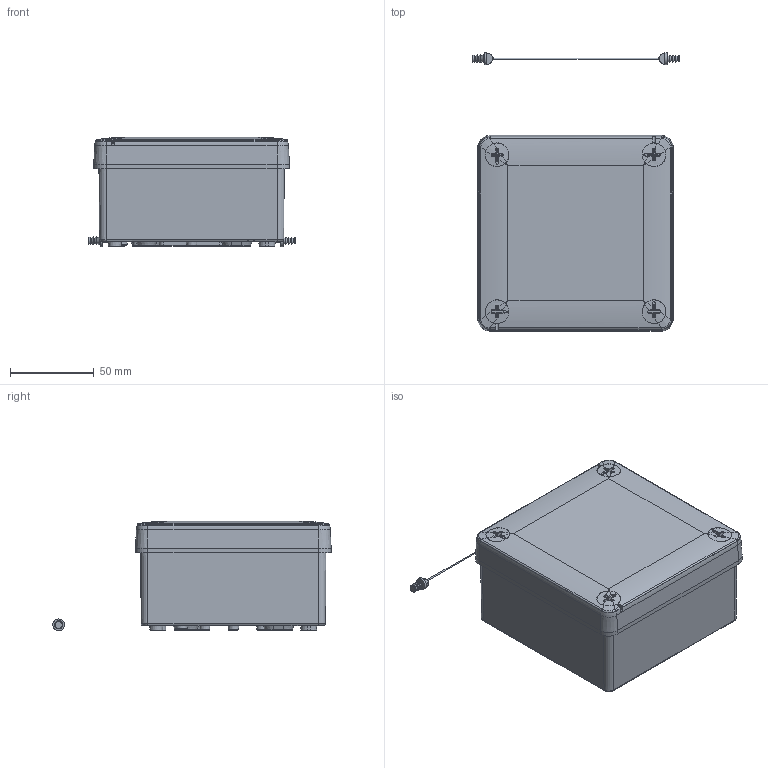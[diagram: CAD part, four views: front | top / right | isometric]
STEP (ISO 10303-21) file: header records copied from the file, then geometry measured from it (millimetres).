
FILE_DESCRIPTION(/* description */ (''),/* implementation_level */ '2;1');
FILE_NAME(/* name */ '4002260.stp',/* time_stamp */ '2019-02-28T15:35:19+01:00',/* author */ (''),/* organization */ (''),/* preprocessor_version */ 'ST-DEVELOPER v16.7',/* originating_system */ 'SIEMENS PLM Software NX 12.0',/* authorisation */ '');
FILE_SCHEMA (('AUTOMOTIVE_DESIGN { 1 0 10303 214 3 1 1 1 }'));
Products named in the file (1): bsom0E707C67neio
Bounding box: 123.52 x 166.42 x 65.4 mm (x, y, z)
Volume: 131193.2 mm3; surface area: 143219.8 mm2
Topology: 7 solids, 7 shells, 1433 faces, 3814 edges, 2450 vertices
Faces by surface type: plane 760, cylinder 334, cone 162, bspline 133, torus 31, revolution 13
Full cylindrical faces by diameter (mm): 0.808 x1, 3.25 x4, 3.408 x2, 4.202 x1, 4.7 x2, 5 x4, 7.008 x2, 8 x8, 14 x4, 14.2 x4, 15.5 x4
Entity records: 54200 total; most frequent: CARTESIAN_POINT 19799, ORIENTED_EDGE 7406, DIRECTION 6702, EDGE_CURVE 3703, VERTEX_POINT 2419, AXIS2_PLACEMENT_3D 2341, LINE 2007, VECTOR 2007
